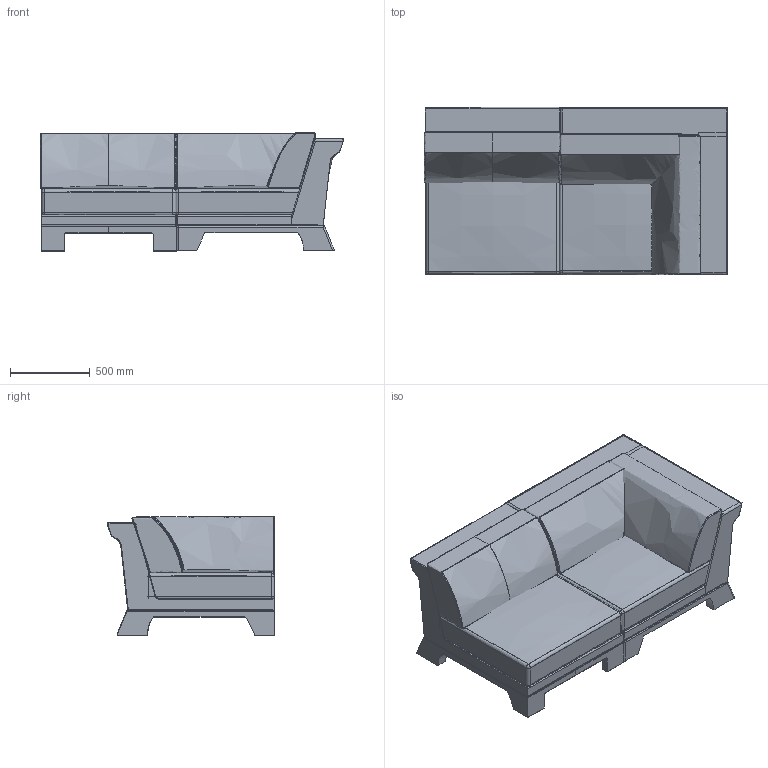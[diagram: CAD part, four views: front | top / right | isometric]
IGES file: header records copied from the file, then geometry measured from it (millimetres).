
Global section: file name: C:\Users\market02\Desktop\RYAN\PATT\FPATTCOM008_COMPOSITION 8_PATT\exportation\FPATTCOM002_COMPOSITION 8_PATT.igs; native system: Rhinoceros ( Dec 14 2021 ); preprocessor: Trout Lake IGES 012 Dec 14 2021; date: 220131.101055; units: millimetre
Bounding box: 1905.57 x 1063.62 x 742.78 mm (x, y, z)
Surface area: 17702644.7 mm2 (no closed solid volume)
Topology: 0 solids, 0 shells, 337 faces, 4134 edges, 4128 vertices
Faces by surface type: bspline 337
